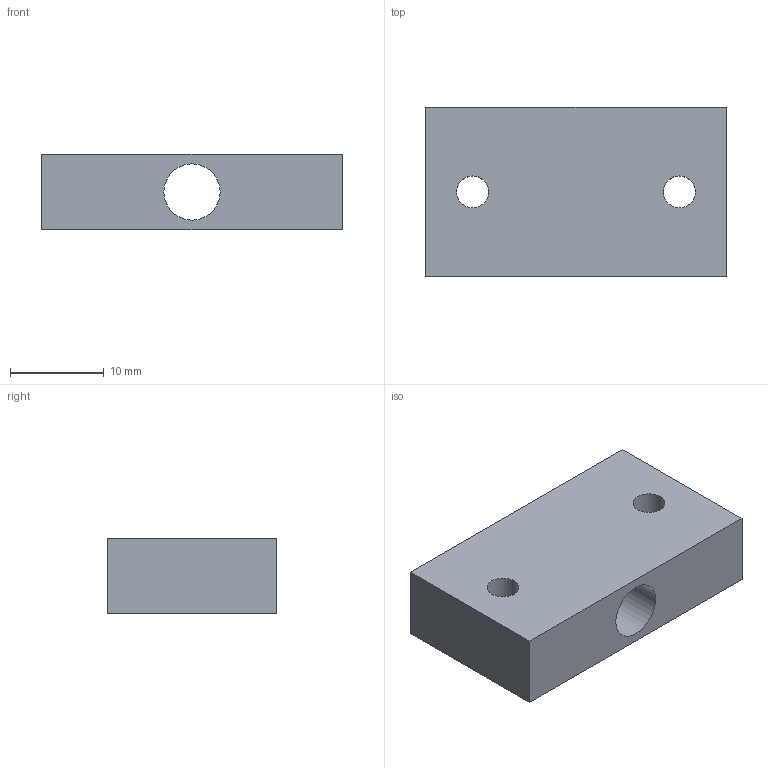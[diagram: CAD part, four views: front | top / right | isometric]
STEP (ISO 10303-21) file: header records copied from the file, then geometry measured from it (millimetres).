
FILE_DESCRIPTION(('Open CASCADE Model'),'2;1');
FILE_NAME('Open CASCADE Shape Model','2026-09-10T23:36:51',('Author'),( 'Open CASCADE'),'Open CASCADE STEP processor 7.9','Open CASCADE 7.9' ,'Unknown');
FILE_SCHEMA(('AUTOMOTIVE_DESIGN { 1 0 10303 214 1 1 1 1 }'));
Length unit declared in the file: millimetre
Products named in the file (1): Open CASCADE STEP translator 7.9 17
Bounding box: 32 x 18 x 8 mm (x, y, z)
Volume: 3953.8 mm3; surface area: 2369.3 mm2
Topology: 1 solids, 1 shells, 10 faces, 23 edges, 15 vertices
Faces by surface type: plane 6, cylinder 4
Full cylindrical faces by diameter (mm): 3.4 x2, 6 x2
Entity records: 621 total; most frequent: CARTESIAN_POINT 126, DIRECTION 92, LINE 55, VECTOR 55, ORIENTED_EDGE 46, PCURVE 46, DEFINITIONAL_REPRESENTATION 46, EDGE_CURVE 23
